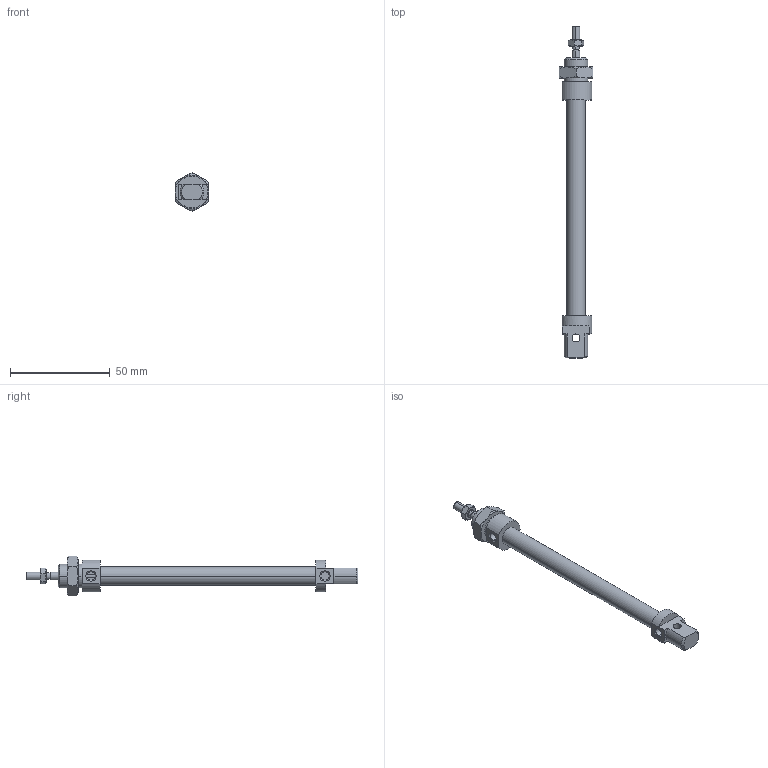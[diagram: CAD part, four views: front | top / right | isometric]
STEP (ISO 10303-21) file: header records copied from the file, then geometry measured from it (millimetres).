
FILE_DESCRIPTION((''),'2;1');
FILE_NAME('I:\DOC-EDP\Lib-3d\1200\CILINDRI\1280\1280_08_0080.stp','2003-04-07T14:44:16',('maffial1'),(''),'Autodesk Inventor (R) 6.0','Autodesk Inventor (R) 6.0','');
FILE_SCHEMA(('AUTOMOTIVE_DESIGN { 1 0 10303 214 1 1 1 1 }'));
Length unit declared in the file: millimetre
Products named in the file (5): 1280_08_0080; S1280_08_80; 1200_08_05; 1200_08_06; C1280_08_80
Assembly tree (4 placements, depth 2):
  1280_08_0080
    S1280_08_80
    1200_08_05
    1200_08_06
    C1280_08_80
Bounding box: 17 x 166 x 19.63 mm (x, y, z)
Volume: 13678.4 mm3; surface area: 9389.5 mm2
Topology: 4 solids, 4 shells, 117 faces, 261 edges, 158 vertices
Faces by surface type: cone 40, plane 34, cylinder 22, bspline 21
Entity records: 3582 total; most frequent: CARTESIAN_POINT 992, DIRECTION 531, ORIENTED_EDGE 522, EDGE_CURVE 261, AXIS2_PLACEMENT_3D 221, VERTEX_POINT 158, EDGE_LOOP 131, FACE_OUTER_BOUND 117
